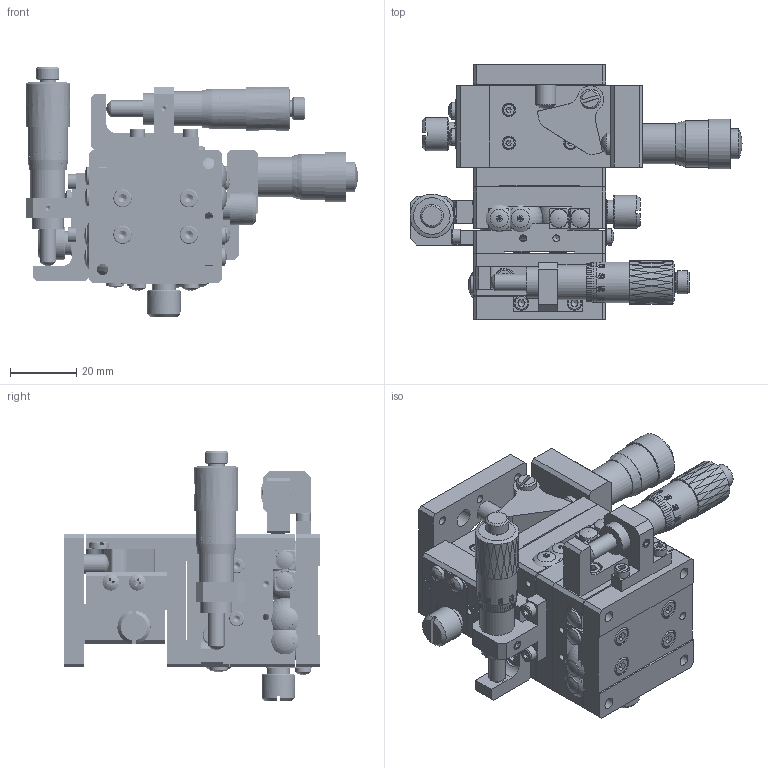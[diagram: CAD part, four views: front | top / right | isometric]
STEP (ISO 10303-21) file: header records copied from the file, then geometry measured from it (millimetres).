
FILE_DESCRIPTION (( 'STEP AP203' ), '1' );
FILE_NAME ('BLD40.STEP', '2024-07-27T06:32:39', ( 'Windows User' ), ( 'P R C' ), 'SwSTEP 2.0', 'SolidWorks 2024', '' );
FILE_SCHEMA (( 'CONFIG_CONTROL_DESIGN' ));
Products named in the file (1): BLD40
Bounding box: 100.11 x 77 x 75.4 mm (x, y, z)
Volume: 110291.7 mm3; surface area: 90184.8 mm2
Topology: 95 solids, 95 shells, 3805 faces, 9305 edges, 5987 vertices
Faces by surface type: plane 1768, bspline 811, cylinder 719, cone 421, torus 76, sphere 10
Full cylindrical faces by diameter (mm): 1.65 x8, 2 x28, 2.05 x39, 2.4 x8, 2.5 x57, 2.55 x16, 2.6 x2, 2.9 x4, 2.95 x27, 3 x42, 3.1 x4, 3.2 x4, 3.4 x31, 3.8 x8, 3.9 x8, 4 x8, 4.4 x16, 4.5 x11, 5 x18, 5.5 x29, 5.8 x4, 6 x33, 6.35 x2, 7 x5, 8.5 x3, 9 x1, 9.5 x6, 10 x3, 10.5 x2, 12 x1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
Entity records: 172545 total; most frequent: CARTESIAN_POINT 94883, ORIENTED_EDGE 16568, DIRECTION 12909, EDGE_CURVE 8284, VERTEX_POINT 5701, EDGE_LOOP 5139, AXIS2_PLACEMENT_3D 4792, FACE_OUTER_BOUND 4244
